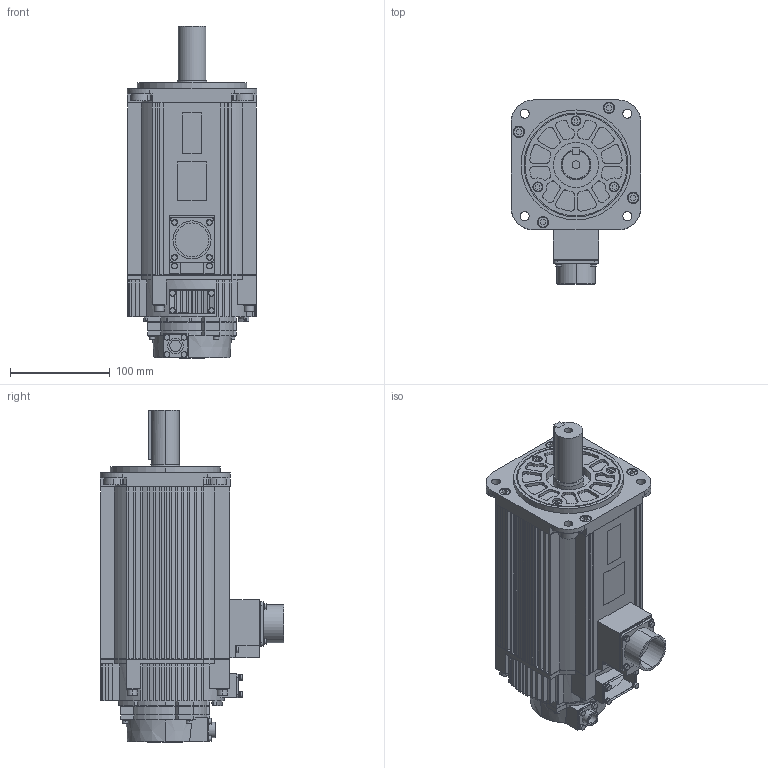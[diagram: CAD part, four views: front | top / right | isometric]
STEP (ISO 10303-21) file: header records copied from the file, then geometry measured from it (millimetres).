
FILE_DESCRIPTION (( 'STEP AP203' ), '1' );
FILE_NAME ('sgmsv_40a_a6c.STEP', '2011-03-20T11:48:25', ( '匠エンジニアリング山之内' ), ( 'TAKUMI-Engniaring' ), 'SwSTEP 2.0', 'SolidWorks 2006303', '' );
FILE_SCHEMA (( 'CONFIG_CONTROL_DESIGN' ));
Length unit declared in the file: millimetre
Products named in the file (3): sgmsv_40a_a6c_base; sgmsv_40a_a6c; sgmsv_40a_a6c_key
Assembly tree (2 placements, depth 2):
  sgmsv_40a_a6c
    sgmsv_40a_a6c_key
    sgmsv_40a_a6c_base
Bounding box: 130 x 183.82 x 332.1 mm (x, y, z)
Volume: 3512947.1 mm3; surface area: 257300.4 mm2
Topology: 2 solids, 2 shells, 1208 faces, 3125 edges, 2043 vertices
Faces by surface type: plane 774, cylinder 426, cone 8
Entity records: 37196 total; most frequent: CARTESIAN_POINT 6510, DIRECTION 6426, ORIENTED_EDGE 6250, EDGE_CURVE 3125, VECTOR 2230, LINE 2230, AXIS2_PLACEMENT_3D 2098, VERTEX_POINT 2043
